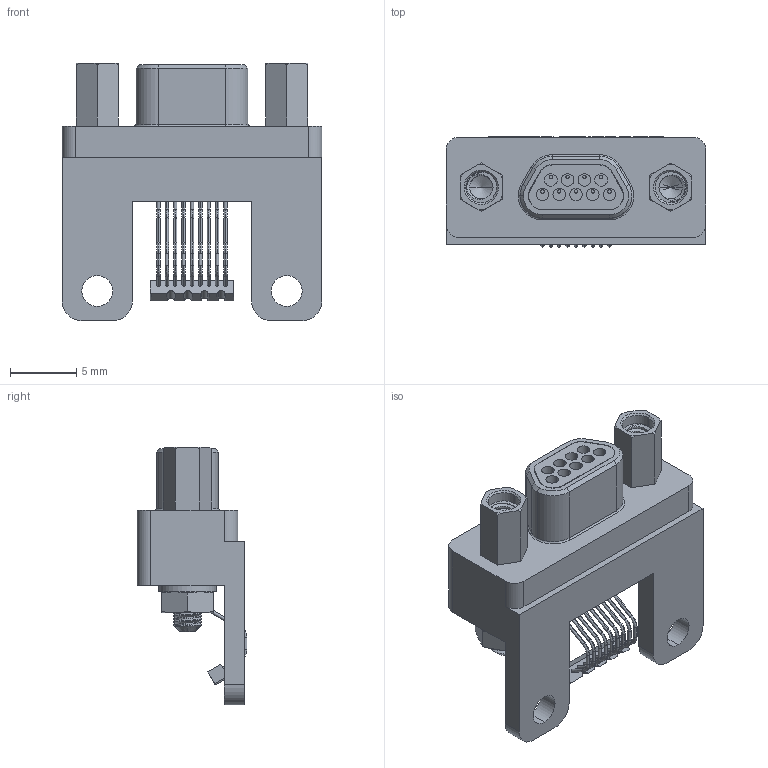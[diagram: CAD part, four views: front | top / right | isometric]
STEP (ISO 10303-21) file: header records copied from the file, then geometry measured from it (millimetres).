
FILE_DESCRIPTION (( 'STEP AP214' ), '1' );
FILE_NAME ('A98601-009 REV A.STEP', '2021-02-04T21:59:17', ( '' ), ( '' ), 'SwSTEP 2.0', 'SolidWorks 2019', '' );
FILE_SCHEMA (( 'AUTOMOTIVE_DESIGN' ));
Length unit declared in the file: inch
Products named in the file (1): A98601-009 REV A
Bounding box: 19.68 x 8.33 x 19.52 mm (x, y, z)
Volume: 1238.7 mm3; surface area: 1990.2 mm2
Topology: 1 solids, 1 shells, 737 faces, 1888 edges, 1196 vertices
Faces by surface type: cylinder 289, plane 236, cone 81, bspline 72, torus 59
Entity records: 43056 total; most frequent: CARTESIAN_POINT 16250, ORIENTED_EDGE 3756, DIRECTION 3382, EDGE_CURVE 1878, AXIS2_PLACEMENT_3D 1253, VERTEX_POINT 1196, VECTOR 876, LINE 876
